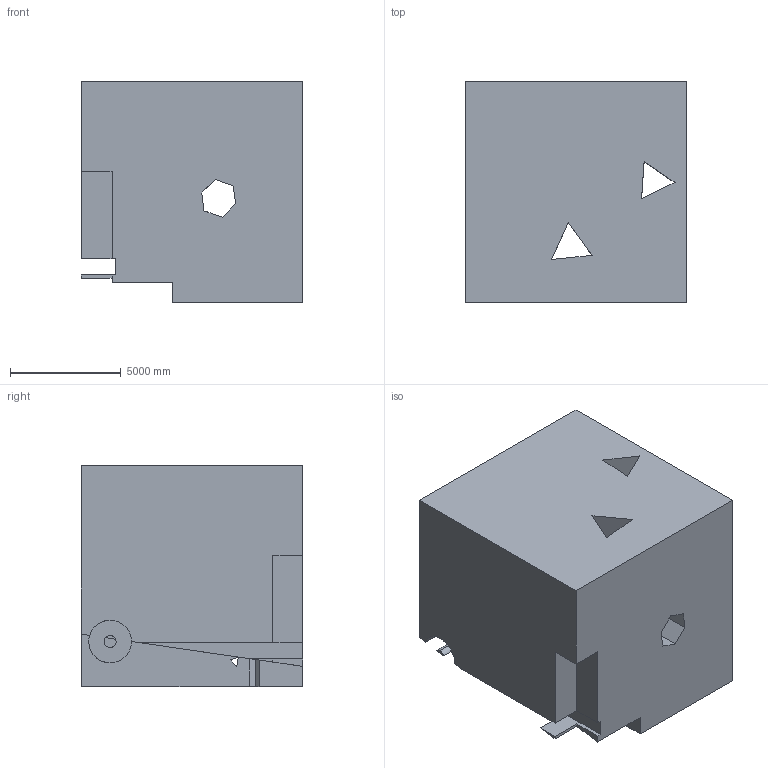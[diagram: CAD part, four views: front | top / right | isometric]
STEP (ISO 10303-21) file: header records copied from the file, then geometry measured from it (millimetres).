
FILE_DESCRIPTION (( 'STEP AP203' ), '1' );
FILE_NAME ('177.STEP', '2022-09-06T13:33:41', ( 'user' ), ( '' ), 'SwSTEP 2.0', 'SolidWorks 2021', '' );
FILE_SCHEMA (( 'CONFIG_CONTROL_DESIGN' ));
Length unit declared in the file: centimetre
Products named in the file (1): 177
Bounding box: 10000 x 10000 x 10000 mm (x, y, z)
Volume: 865471906031 mm3; surface area: 757347240.2 mm2
Topology: 1 solids, 1 shells, 46 faces, 139 edges, 92 vertices
Faces by surface type: plane 42, cylinder 4
Entity records: 1640 total; most frequent: CARTESIAN_POINT 278, ORIENTED_EDGE 278, DIRECTION 245, EDGE_CURVE 139, LINE 127, VECTOR 127, VERTEX_POINT 92, AXIS2_PLACEMENT_3D 59
